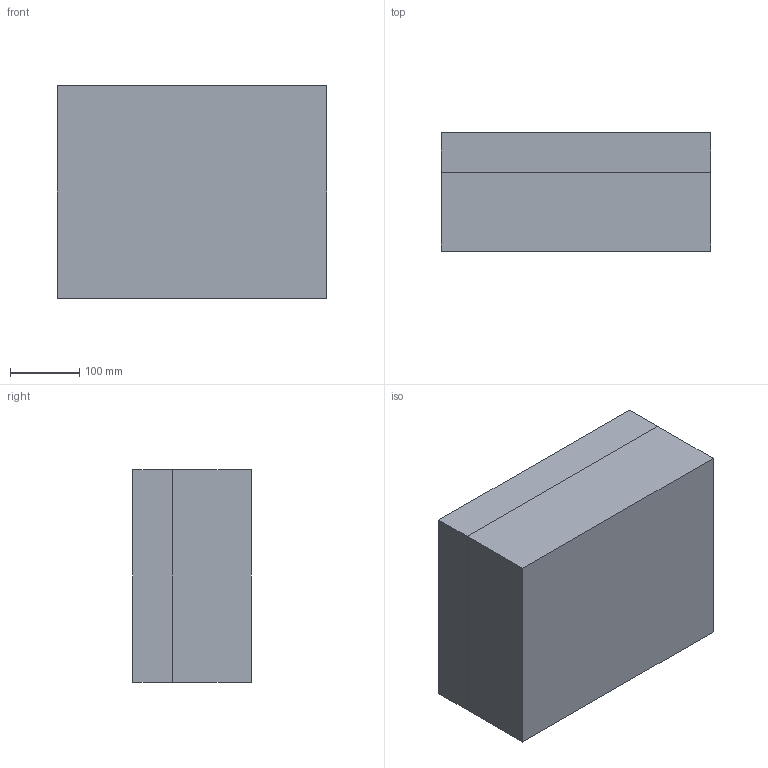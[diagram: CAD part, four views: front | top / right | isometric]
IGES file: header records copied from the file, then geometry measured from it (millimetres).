
Start section: SolidWorks IGES file using analytic representation for surfaces
Global section: file name: S:\Share\NANUK\Solidworks\Dummies\For Line Drawings\IGES\915.IGS; native system: SolidWorks 2008; preprocessor: SolidWorks 2008; author: adallaire; date: 090121.161619; units: inch
Bounding box: 390.4 x 171.63 x 308.08 mm (x, y, z)
Surface area: 874328.9 mm2 (no closed solid volume)
Topology: 0 solids, 0 shells, 704 faces, 9801 edges, 9789 vertices
Faces by surface type: bspline 500, revolution 204
